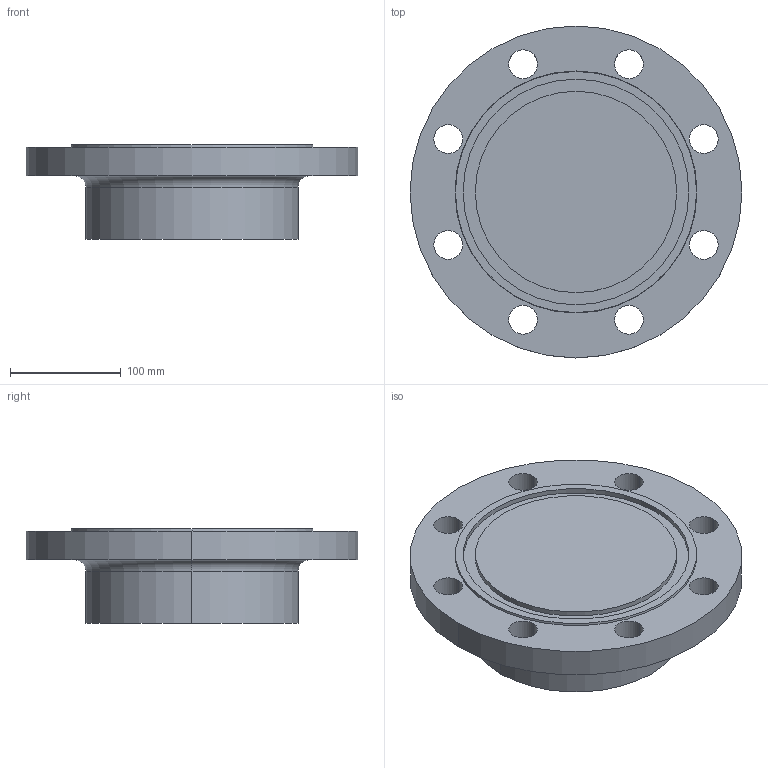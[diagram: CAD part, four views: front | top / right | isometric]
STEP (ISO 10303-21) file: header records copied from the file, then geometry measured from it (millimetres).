
FILE_DESCRIPTION (( 'STEP AP214' ), '1' );
FILE_NAME ('PN40 DN150 Type 21(i) - Type D Face.STEP', '2019-01-04T21:54:56', ( '' ), ( '' ), 'SwSTEP 2.0', 'SolidWorks 2019', '' );
FILE_SCHEMA (( 'AUTOMOTIVE_DESIGN' ));
Length unit declared in the file: millimetre
Products named in the file (1): PN40 DN150 Type 21(i) - Type D Face
Bounding box: 300 x 300 x 85 mm (x, y, z)
Volume: 3435839.5 mm3; surface area: 212816.3 mm2
Topology: 1 solids, 1 shells, 34 faces, 82 edges, 54 vertices
Faces by surface type: cylinder 24, plane 6, torus 2, cone 2
Entity records: 1092 total; most frequent: DIRECTION 208, CARTESIAN_POINT 171, ORIENTED_EDGE 164, AXIS2_PLACEMENT_3D 91, EDGE_CURVE 82, CIRCLE 56, EDGE_LOOP 54, VERTEX_POINT 54
